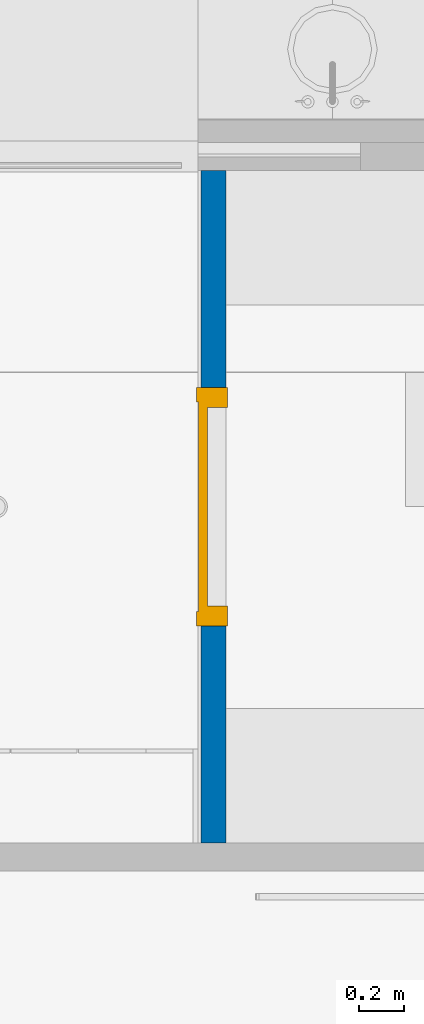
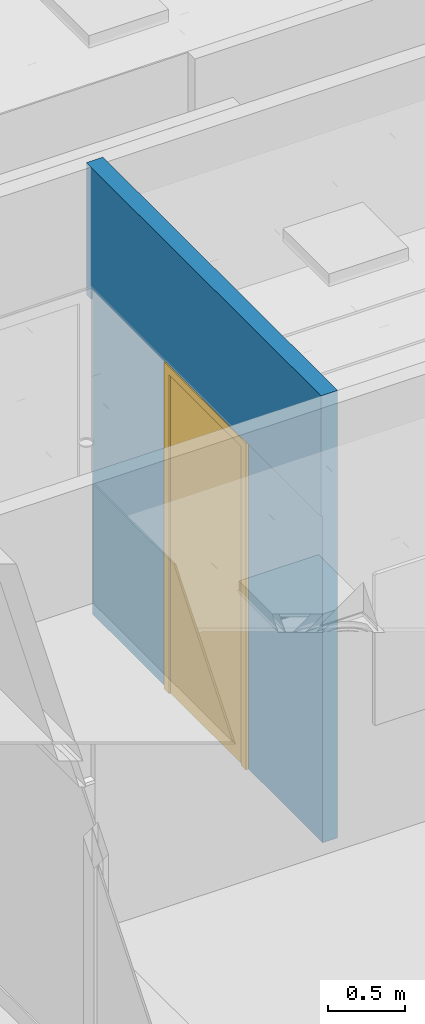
# One storey, part 37 of 260: 1 door, 1 wall, 1 opening.
"""IFC2X3 building model written with IfcOpenShell, lengths in millimetres."""

import ifcopenshell
import ifcopenshell.guid

model = None  # the IFC model being written
_history = None  # IfcOwnerHistory: only IFC2X3 demands one
_inside = {}  # id of a spatial element -> (the spatial element, [elements in it])
_under = {}  # id of a project, library or spatial element -> (it, [spatial elements below it])
_declared = {}  # id of a project -> (the project, [libraries it declares])
_typed = {}  # id of a type object -> (the type object, [elements of that type])
_made_of = {}  # id of a material, layer set ... -> (it, [elements and type objects made of it])


def new_model(schema):
    """Start an empty IFC model of exactly this schema.

    Asked for "IFC4X3", IfcOpenShell would pick the latest addendum, in which some entities
    have other attributes; the version numbers below select the first issue.
    IFC2X3 requires an IfcOwnerHistory on every rooted entity: one is made here for all.
    """
    global model, _history
    if schema == "IFC4X3":
        model = ifcopenshell.file(schema_version=(4, 3, 0, 0))
    else:
        model = ifcopenshell.file(schema=schema)
    _inside.clear()
    _under.clear()
    _declared.clear()
    _typed.clear()
    _made_of.clear()
    _history = None
    if model.schema == "IFC2X3":
        org = make("IfcOrganization", Name="unknown")
        user = make(
            "IfcPersonAndOrganization",
            ThePerson=make("IfcPerson", FamilyName="unknown"),
            TheOrganization=org,
        )
        app = make(
            "IfcApplication",
            ApplicationDeveloper=org,
            Version="unknown",
            ApplicationFullName="unknown",
            ApplicationIdentifier="unknown",
        )
        _history = make(
            "IfcOwnerHistory",
            OwningUser=user,
            OwningApplication=app,
            ChangeAction="ADDED",
            CreationDate=0,
        )
    return model


def make(cls, **values):
    """One entity of the class cls with the attributes given. An attribute that is None is left unset."""
    return model.create_entity(
        cls, **{name: value for name, value in values.items() if value is not None}
    )


def entity(cls, *values):
    """Any entity or typed value of the class cls, its attributes in the order of the schema. None: left unset."""
    e = model.create_entity(cls)
    for i, value in enumerate(values):
        if value is not None:
            e[i] = value
    return e


def rooted(cls, **values):
    """An entity with a GlobalId (a new one), such as an element, a storey or a relation."""
    return make(cls, GlobalId=ifcopenshell.guid.new(), OwnerHistory=_history, **values)


def si_unit(unit_type, name, prefix=None):
    """IfcSIUnit, for example si_unit("LENGTHUNIT", "METRE", prefix="MILLI")."""
    return make("IfcSIUnit", UnitType=unit_type, Prefix=prefix, Name=name)


def converted_unit(unit_type, name, factor, base, dimensions=None, offset=None):
    """IfcConversionBasedUnit, such as the inch: factor (a typed value) times the base unit."""
    return make(
        "IfcConversionBasedUnit"
        if offset is None
        else "IfcConversionBasedUnitWithOffset",
        ConversionOffset=offset,
        Dimensions=None
        if dimensions is None
        else entity("IfcDimensionalExponents", *dimensions),
        UnitType=unit_type,
        Name=name,
        ConversionFactor=make(
            "IfcMeasureWithUnit", ValueComponent=factor, UnitComponent=base
        ),
    )


def derived_unit(unit_type, elements):
    """IfcDerivedUnit: a product of units, each with its exponent."""
    return make(
        "IfcDerivedUnit",
        Elements=[
            make("IfcDerivedUnitElement", Unit=unit, Exponent=power)
            for unit, power in elements
        ],
        UnitType=unit_type,
    )


def money_unit(currency):
    """IfcMonetaryUnit."""
    return make("IfcMonetaryUnit", Currency=currency)


def assignment(units):
    """IfcUnitAssignment: the units of a project."""
    return None if units is None else make("IfcUnitAssignment", Units=units)


def point(xyz):
    """IfcCartesianPoint."""
    return None if xyz is None else make("IfcCartesianPoint", Coordinates=xyz)


def direction(xyz):
    """IfcDirection."""
    return None if xyz is None else make("IfcDirection", DirectionRatios=xyz)


def frame(location, z_axis=None, x_axis=None):
    """IfcAxis2Placement3D, a coordinate frame: its origin and axes. An axis left out is left unset."""
    return make(
        "IfcAxis2Placement3D",
        Location=point(location),
        Axis=direction(z_axis),
        RefDirection=direction(x_axis),
    )


def origin_with_axes():
    """The frame at (0, 0, 0) with the z axis (0, 0, 1) and the x axis (1, 0, 0) written out."""
    return frame((0.0, 0.0, 0.0), z_axis=(0.0, 0.0, 1.0), x_axis=(1.0, 0.0, 0.0))


def place(relative_to, where):
    """IfcLocalPlacement: puts the frame where relative to a parent placement (None: the world)."""
    return make(
        "IfcLocalPlacement", PlacementRelTo=relative_to, RelativePlacement=where
    )


def context(
    kind, dimensions, precision=None, world=None, true_north=None, identifier=None
):
    """IfcGeometricRepresentationContext, for example the 3D "Model" context."""
    return make(
        "IfcGeometricRepresentationContext",
        ContextIdentifier=identifier,
        ContextType=kind,
        CoordinateSpaceDimension=dimensions,
        Precision=precision,
        WorldCoordinateSystem=world,
        TrueNorth=true_north,
    )


def subcontext(parent, identifier, kind, view, scale=None):
    """IfcGeometricRepresentationSubContext, for example "Body" below "Model"."""
    return make(
        "IfcGeometricRepresentationSubContext",
        ContextIdentifier=identifier,
        ContextType=kind,
        ParentContext=parent,
        TargetScale=scale,
        TargetView=view,
    )


def project(units=None, contexts=None):
    """IfcProject with its units and contexts."""
    return rooted(
        "IfcProject",
        Name="project",
        RepresentationContexts=contexts,
        UnitsInContext=assignment(units),
    )


def spatial(cls, under=None, at=None, **own):
    """A site, building, storey or space (cls), placed at a placement, below another one or the project."""
    s = rooted(cls, ObjectPlacement=at, **own)
    if under is not None:
        _under.setdefault(under.id(), (under, []))[1].append(s)
    return s


def faces_of(points, faces, orient=None, outer=None):
    """IfcFace entities. A face is a list of loops; a loop is a list of indices into points, from 0.

    orient and outer hold one flag for each loop. By default every Orientation is true, the
    first loop of a face is its IfcFaceOuterBound and the others are IfcFaceBound.
    """
    made = []
    for i, loops in enumerate(faces):
        bounds = []
        for j, loop in enumerate(loops):
            is_outer = j == 0 if outer is None else outer[i][j]
            bounds.append(
                make(
                    "IfcFaceOuterBound" if is_outer else "IfcFaceBound",
                    Bound=make("IfcPolyLoop", Polygon=[points[k] for k in loop]),
                    Orientation=True if orient is None else orient[i][j],
                )
            )
        made.append(make("IfcFace", Bounds=bounds))
    return made


def faceted_brep(points, faces, orient=None, outer=None, voids=None):
    """IfcFacetedBrep: a solid bounded by flat faces; with voids (closed shells), ...WithVoids."""
    shared = [point(p) for p in points]
    hull = make("IfcClosedShell", CfsFaces=faces_of(shared, faces, orient, outer))
    if voids is None:
        return make("IfcFacetedBrep", Outer=hull)
    return make(
        "IfcFacetedBrepWithVoids",
        Outer=hull,
        Voids=[
            make(cls, CfsFaces=faces_of(shared, fs, o, b)) for cls, fs, o, b in voids
        ],
    )


def shape(context_of_items, identifier, shape_type, items):
    """IfcShapeRepresentation: the items that make up one representation, for example the "Body"."""
    return make(
        "IfcShapeRepresentation",
        ContextOfItems=context_of_items,
        RepresentationIdentifier=identifier,
        RepresentationType=shape_type,
        Items=items,
    )


def source(mapping_origin, context_of_items, identifier, shape_type, items):
    """IfcRepresentationMap: a shape defined once, which mapped items show again and again."""
    return make(
        "IfcRepresentationMap",
        MappingOrigin=mapping_origin,
        MappedRepresentation=shape(context_of_items, identifier, shape_type, items),
    )


def transform(
    local_origin,
    x_axis=None,
    y_axis=None,
    z_axis=None,
    scale=None,
    scale2=None,
    scale3=None,
    uniform=True,
):
    """IfcCartesianTransformationOperator3D, or its non-uniform kind. x_axis, y_axis, z_axis: its Axis1, 2, 3."""
    if uniform:
        return make(
            "IfcCartesianTransformationOperator3D",
            Axis1=direction(x_axis),
            Axis2=direction(y_axis),
            LocalOrigin=point(local_origin),
            Scale=scale,
            Axis3=direction(z_axis),
        )
    return make(
        "IfcCartesianTransformationOperator3DnonUniform",
        Axis1=direction(x_axis),
        Axis2=direction(y_axis),
        LocalOrigin=point(local_origin),
        Scale=scale,
        Axis3=direction(z_axis),
        Scale2=scale2,
        Scale3=scale3,
    )


def mapped(mapping_source, mapping_target):
    """IfcMappedItem: shows the shape of a source again, moved by a transform."""
    return make(
        "IfcMappedItem", MappingSource=mapping_source, MappingTarget=mapping_target
    )


def material(Name=None, Category=None):
    """IfcMaterial."""
    return make("IfcMaterial", Name=Name, Category=Category)


def made_of(thing, what):
    """Note that an element or type object is made of a material, layer set ...; save() writes the relation."""
    if what is not None:
        _made_of.setdefault(what.id(), (what, []))[1].append(thing)
    return thing


def type_object(cls, material=None, **own):
    """A type object (cls), such as IfcWallType, which elements share."""
    return made_of(rooted(cls, **own), material)


def type_shapes(of_type, sources):
    """Give a type object the sources (RepresentationMaps) that its elements show as mapped items."""
    of_type.RepresentationMaps = sources


def element(
    cls,
    number,
    at=None,
    inside=None,
    cuts=None,
    type_object=None,
    material=None,
    context=None,
    identifier="Body",
    shape_type=None,
    held_by="IfcProductDefinitionShape",
    body=None,
    shapes=None,
    **own,
):
    """One element of the class cls, such as IfcWall. Its Tag is "e" and its number.

    at: its placement. inside: the storey or other place that contains it. cuts: it is an
    opening in that element (IfcRelVoidsElement). A single representation is given by context,
    identifier, shape_type and body (its items); several are given by shapes. held_by: the class
    of the entity that holds the representations. save() writes the other relations.
    """
    e = rooted(cls, Tag="e%d" % number, ObjectPlacement=at, **own)
    if body is not None:
        shapes = [shape(context, identifier, shape_type, body)]
    if shapes is not None:
        e.Representation = make(held_by, Representations=shapes)
    if inside is not None:
        _inside.setdefault(inside.id(), (inside, []))[1].append(e)
    if cuts is not None:
        rooted(
            "IfcRelVoidsElement", RelatingBuildingElement=cuts, RelatedOpeningElement=e
        )
    if type_object is not None:
        _typed.setdefault(type_object.id(), (type_object, []))[1].append(e)
    return made_of(e, material)


def fill(opening, filler):
    """IfcRelFillsElement: the door or window that sits in an opening."""
    return rooted(
        "IfcRelFillsElement",
        RelatingOpeningElement=opening,
        RelatedBuildingElement=filler,
    )


def aggregate(whole, parts):
    """IfcRelAggregates: a whole, such as a stair, and the parts it consists of."""
    return rooted("IfcRelAggregates", RelatingObject=whole, RelatedObjects=parts)


def save(model, path):
    """Write the relations noted so far, then the file.

    IfcRelAggregates (storeys below a building ...), IfcRelContainedInSpatialStructure (elements
    in a storey), IfcRelDefinesByType, IfcRelAssociatesMaterial and IfcRelDeclares: one each for
    every whole, place, type object, material and project.
    """
    for whole, parts in _under.values():
        aggregate(whole, parts)
    for where, things in _inside.values():
        rooted(
            "IfcRelContainedInSpatialStructure",
            RelatedElements=things,
            RelatingStructure=where,
        )
    for kind, things in _typed.values():
        rooted("IfcRelDefinesByType", RelatedObjects=things, RelatingType=kind)
    for what, things in _made_of.values():
        rooted("IfcRelAssociatesMaterial", RelatedObjects=things, RelatingMaterial=what)
    for by, libraries in _declared.values():
        rooted("IfcRelDeclares", RelatingContext=by, RelatedDefinitions=libraries)
    model.write(path)


model = new_model("IFC2X3")

# Units and contexts
model_context = context("Model", 3, precision=0.01, world=origin_with_axes(), true_north=direction((0.0, 1.0)))
plan_context = context("Plan", 3, precision=0.01, world=origin_with_axes(), true_north=direction((0.0, 1.0)))
body_context = subcontext(model_context, "Body", "Model", "MODEL_VIEW")
ifc_project = project(units=[si_unit("LENGTHUNIT", "METRE", prefix="MILLI"), si_unit("AREAUNIT", "SQUARE_METRE"), si_unit("VOLUMEUNIT", "CUBIC_METRE"), converted_unit("PLANEANGLEUNIT", "DEGREE", entity("IfcPlaneAngleMeasure", 0.0174532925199), si_unit("PLANEANGLEUNIT", "RADIAN"), dimensions=[0, 0, 0, 0, 0, 0, 0]), money_unit("EUR"), converted_unit("TIMEUNIT", "Year", entity("IfcTimeMeasure", 31556926.0), si_unit("TIMEUNIT", "SECOND"), dimensions=[0, 0, 1, 0, 0, 0, 0]), si_unit("MASSUNIT", "GRAM", prefix="KILO"), si_unit("THERMODYNAMICTEMPERATUREUNIT", "DEGREE_CELSIUS"), si_unit("LUMINOUSINTENSITYUNIT", "LUMEN"), si_unit("ENERGYUNIT", "JOULE", prefix="MEGA"), derived_unit("THERMALCONDUCTANCEUNIT", [(si_unit("POWERUNIT", "WATT"), 1), (si_unit("LENGTHUNIT", "METRE"), -1), (si_unit("THERMODYNAMICTEMPERATUREUNIT", "KELVIN"), -1)]), derived_unit("SPECIFICHEATCAPACITYUNIT", [(si_unit("ENERGYUNIT", "JOULE"), 1), (si_unit("MASSUNIT", "GRAM", prefix="KILO"), -1), (si_unit("THERMODYNAMICTEMPERATUREUNIT", "KELVIN"), -1)]), derived_unit("MASSDENSITYUNIT", [(si_unit("MASSUNIT", "GRAM", prefix="KILO"), 1), (si_unit("VOLUMEUNIT", "CUBIC_METRE"), -1)])], contexts=[model_context, plan_context])

# Site, building, storey
site_placement = place(None, origin_with_axes())
site = spatial("IfcSite", under=ifc_project, at=site_placement, Name="Site", CompositionType="ELEMENT")
building_placement = place(site_placement, origin_with_axes())
building = spatial("IfcBuilding", under=site, at=building_placement, Name="Naam gebouw", CompositionType="ELEMENT")
storey_placement = place(building_placement, frame((0.0, 0.0, 3960.0), z_axis=(0.0, 0.0, 1.0), x_axis=(1.0, 0.0, 0.0)))
storey = spatial("IfcBuildingStorey", under=building, at=storey_placement, Name="verdieping", CompositionType="ELEMENT", Elevation=3960.0)

# Wall, opening, door
ifc_material = material(Name="ALG - LICHTE SCHEIDINGSWAND")
wall_type = type_object("IfcWallType", Name="ALG LSW 125 125", PredefinedType="NOTDEFINED")
wall_placement = place(storey_placement, frame((50750.0, 39022.5, 0.0), z_axis=(0.0, 0.0, 1.0), x_axis=(0.0, -1.0, 0.0)))
wall = element("IfcWall", 1, at=wall_placement, inside=storey, type_object=wall_type, material=ifc_material, Name="22_GF 125 ECO DGS/2.75.2A", context=body_context, shape_type="Brep", body=[
    faceted_brep([(2091.99998207, 125.0, 0.0), (2091.99998207, 125.0, 2600.0), (1027.99998207, 125.0, 2600.0), (1027.99998207, 125.0, 0.0), (60.0, 125.0, 0.0), (60.0, 125.0, 2510.0), (0.0, 125.0, 2510.0), (0.0, 125.0, 3560.0), (3060.0, 125.0, 3560.0), (3060.0, 125.0, 0.0), (2091.99998207, 12.5, 0.0), (2091.99998207, 12.5, 2600.0), (2091.99998207, 0.0, 2600.0), (1027.99998207, 0.0, 2600.0), (1027.99998207, 12.5, 2600.0), (1027.99998207, 12.5, 0.0), (60.0, 12.5, 0.0), (60.0, 12.5, 2510.0), (60.0, 0.0, 2510.0), (0.0, 0.0, 2510.0), (0.0, 0.0, 3560.0), (3060.0, 0.0, 3560.0), (3060.0, 0.0, 2600.0), (3060.0, 12.5, 2600.0), (3060.0, 12.5, 0.0), (60.0, 0.0, 2600.0), (60.0, 12.5, 2600.0)], [[[0, 1, 2, 3, 4, 5, 6, 7, 8, 9]], [[1, 0, 10, 11]], [[2, 1, 11, 12, 13, 14]], [[3, 2, 14, 15]], [[3, 15, 16, 4]], [[16, 17, 5, 4]], [[18, 19, 6, 5, 17]], [[7, 6, 19, 20]], [[21, 8, 7, 20]], [[9, 8, 21, 22, 23, 24]], [[10, 0, 9, 24]], [[11, 10, 24, 23]], [[12, 11, 23, 22]], [[13, 12, 22, 21, 20, 19, 18, 25]], [[14, 13, 25, 26]], [[15, 14, 26, 17, 16]], [[18, 17, 26, 25]]]),
])
opening_placement = place(wall_placement, frame((1559.99998207, 0.0, 0.0), z_axis=(0.0, 0.0, 1.0), x_axis=(1.0, 0.0, 0.0)))
opening = element("IfcOpeningElement", 2, at=opening_placement, cuts=wall, Name="32_02.03", context=body_context, shape_type="Brep", body=[
    faceted_brep([(-532.0, 125.0, 2600.0), (-532.0, 125.0, 0.0), (-532.0, -257.0, 0.0), (-532.0, -257.0, 2600.0), (532.0, 125.0, 2600.0), (532.0, 125.0, 0.0), (532.0, -257.0, 0.0), (532.0, -257.0, 2600.0)], [[[0, 1, 2, 3]], [[0, 4, 5, 1]], [[1, 5, 6, 2]], [[3, 2, 6, 7]], [[4, 0, 3, 7]], [[5, 4, 7, 6]]]),
])
door_style = type_object("IfcDoorStyle", Name="D1 25", ConstructionType="NOTDEFINED", OperationType="SINGLE_SWING_RIGHT", ParameterTakesPrecedence=False, Sizeable=False)
shared_shape = source(origin_with_axes(), body_context, "Body", "Brep", [
    faceted_brep([(-442.0, -50.0, 0.0), (-442.0, -50.0, 2510.0), (-442.0, -139.0, 2510.0), (-442.0, -139.0, 0.0), (-467.0, -50.0, 2510.0), (-467.0, -50.0, 0.0), (-467.0, 0.0, 2510.0), (-532.0, 0.0, 2510.0), (-532.0, -139.0, 2510.0), (-532.0, -139.0, 0.0), (-532.0, 0.0, 0.0), (-467.0, 0.0, 0.0)], [[[0, 1, 2, 3]], [[4, 1, 0, 5]], [[4, 6, 7, 8, 2, 1]], [[3, 2, 8, 9]], [[5, 0, 3, 9, 10, 11]], [[6, 4, 5, 11]], [[6, 11, 10, 7]], [[10, 9, 8, 7]]]),
    faceted_brep([(467.0, -50.0, 2510.0), (442.0, -50.0, 2510.0), (442.0, -139.0, 2510.0), (532.0, -139.0, 2510.0), (532.0, 0.0, 2510.0), (467.0, 0.0, 2510.0), (467.0, -50.0, 0.0), (442.0, -50.0, 0.0), (442.0, -139.0, 0.0), (532.0, -139.0, 0.0), (532.0, 0.0, 0.0), (467.0, 0.0, 0.0)], [[[0, 1, 2, 3, 4, 5]], [[1, 0, 6, 7]], [[1, 7, 8, 2]], [[3, 2, 8, 9]], [[4, 3, 9, 10]], [[11, 5, 4, 10]], [[0, 5, 11, 6]], [[6, 11, 10, 9, 8, 7]]]),
    faceted_brep([(-467.0, 0.0, 2535.0), (-467.0, 0.0, 2510.0), (-532.0, 0.0, 2510.0), (-532.0, 0.0, 2600.0), (532.0, 0.0, 2600.0), (532.0, 0.0, 2510.0), (467.0, 0.0, 2510.0), (467.0, 0.0, 2535.0), (-467.0, -50.0, 2535.0), (-467.0, -50.0, 2510.0), (-442.0, -50.0, 2510.0), (-442.0, -139.0, 2510.0), (-532.0, -139.0, 2510.0), (-532.0, -139.0, 2600.0), (532.0, -139.0, 2600.0), (532.0, -139.0, 2510.0), (467.0, -50.0, 2510.0), (442.0, -139.0, 2510.0), (442.0, -50.0, 2510.0), (467.0, -50.0, 2535.0)], [[[0, 1, 2, 3, 4, 5, 6, 7]], [[1, 0, 8, 9]], [[9, 10, 11, 12, 2, 1]], [[2, 12, 13, 3]], [[3, 13, 14, 4]], [[4, 14, 15, 5]], [[16, 6, 5, 15, 17, 18]], [[7, 6, 16, 19]], [[0, 7, 19, 8]], [[16, 18, 10, 9, 8, 19]], [[10, 18, 17, 11]], [[17, 15, 14, 13, 12, 11]]]),
    faceted_brep([(467.0, -10.0, 0.0), (467.0, -50.0, 0.0), (-467.0, -50.0, 0.0), (-467.0, -10.0, 0.0), (467.0, -10.0, 2535.0), (467.0, -50.0, 2535.0), (-467.0, -50.0, 2535.0), (-467.0, -10.0, 2535.0)], [[[0, 1, 2, 3]], [[4, 5, 1, 0]], [[1, 5, 6, 2]], [[3, 2, 6, 7]], [[0, 3, 7, 4]], [[7, 6, 5, 4]]]),
])
type_shapes(door_style, [shared_shape])
door_placement = place(opening_placement, frame((532.0, 0.0, 0.0), z_axis=(0.0, 0.0, 1.0), x_axis=(-1.0, 0.0, 0.0)))
door = element("IfcDoor", 3, at=door_placement, inside=storey, type_object=door_style, Name="32_02.03", ObjectType="DOOR", OverallHeight=2600.0, OverallWidth=1064.0, context=body_context, shape_type="MappedRepresentation", body=[
    mapped(shared_shape, transform((532.0, 7.0, 0.0))),
])
fill(opening, door)

save(model, "model.ifc")
